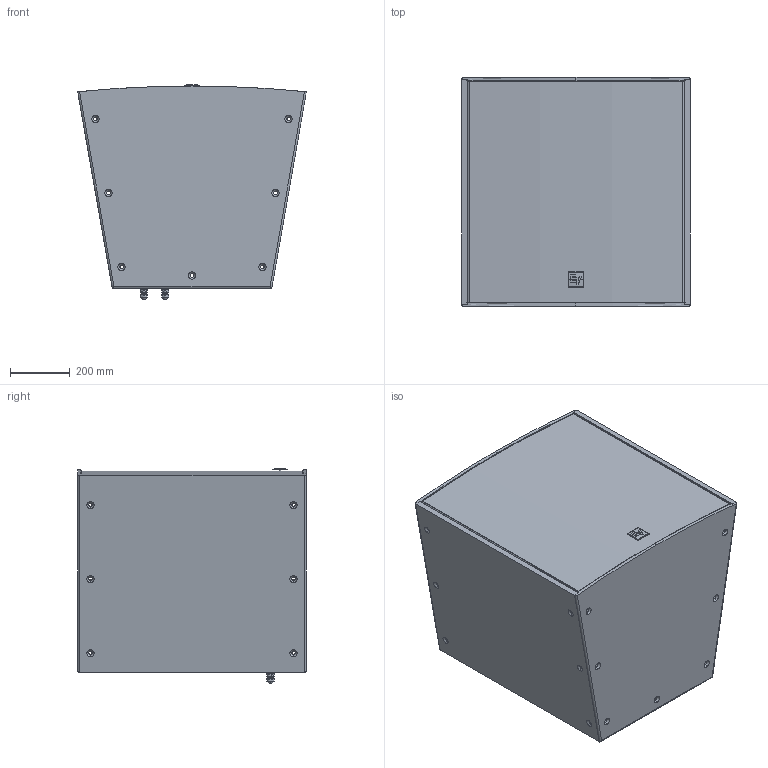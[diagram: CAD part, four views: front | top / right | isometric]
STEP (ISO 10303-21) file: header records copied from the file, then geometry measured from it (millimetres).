
FILE_DESCRIPTION (( 'STEP AP214' ), '1' );
FILE_NAME ('EVH-1152 3D CAD.STEP', '2021-07-22T17:21:27', ( '' ), ( '' ), 'SwSTEP 2.0', 'SolidWorks 2019', '' );
FILE_SCHEMA (( 'AUTOMOTIVE_DESIGN' ));
Length unit declared in the file: millimetre
Products named in the file (10): EVH-1152 Gland Nut; EVH-1152 Enclosure Back Panel; EVH-1152 Enclosure Assembly; EVH-1152 Enclosure Side Panel; EVH-1152 3D CAD; EVH-1152 EV Logo; EVH-1152 Enclosure Top And Bottom Panel; EVH-1152 Gland Nut Panel; EVH-1152 Grille
Assembly tree (11 placements, depth 3):
  EVH-1152 3D CAD
    EVH-1152 Enclosure Assembly
      EVH-1152 Enclosure Top And Bottom Panel
      EVH-1152 Enclosure Top And Bottom Panel
      EVH-1152 Enclosure Side Panel  x2
      EVH-1152 Enclosure Back Panel
    EVH-1152 Grille
    EVH-1152 EV Logo
    EVH-1152 Gland Nut Panel
    EVH-1152 Gland Nut  x2
Bounding box: 768.63 x 768.55 x 720.58 mm (x, y, z)
Volume: 40739246.8 mm3; surface area: 6009205.5 mm2
Topology: 14 solids, 14 shells, 638 faces, 1631 edges, 1025 vertices
Faces by surface type: cylinder 186, plane 163, bspline 145, cone 110, torus 34
Entity records: 29847 total; most frequent: CARTESIAN_POINT 18878, ORIENTED_EDGE 2432, DIRECTION 1864, EDGE_CURVE 1216, VERTEX_POINT 762, AXIS2_PLACEMENT_3D 711, EDGE_LOOP 556, ADVANCED_FACE 479
